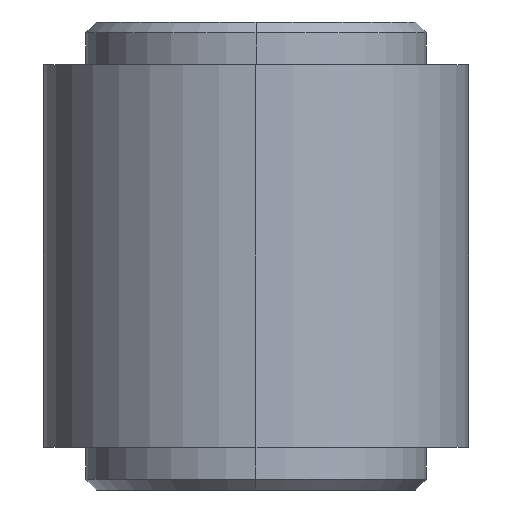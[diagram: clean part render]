
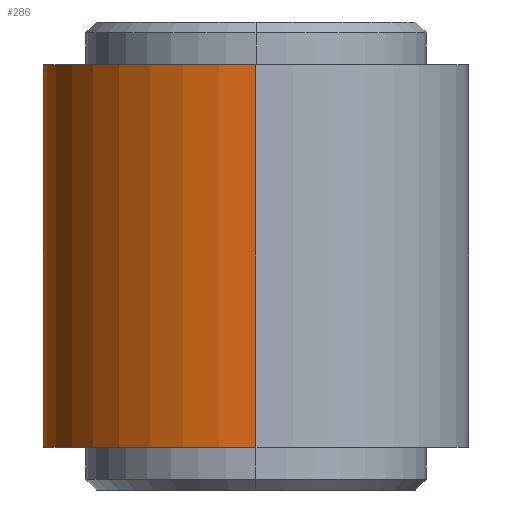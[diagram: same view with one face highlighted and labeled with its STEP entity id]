
A CAD part, left-side view. The second image highlights one B-rep face of the part: STEP entity #286.
In plain terms, the highlighted cylindrical face has radius 10 mm (diameter 20 mm), a partial arc.
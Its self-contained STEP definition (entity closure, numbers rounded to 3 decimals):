
#3 = CARTESIAN_POINT ( 'NONE',  ( 0., 0., 9. ) ) ;
#63 = ORIENTED_EDGE ( 'NONE', *, *, #269, .T. ) ;
#71 = AXIS2_PLACEMENT_3D ( 'NONE', #3, #1313, #1686 ) ;
#104 = CARTESIAN_POINT ( 'NONE',  ( 10., 0., -9. ) ) ;
#105 = CARTESIAN_POINT ( 'NONE',  ( 9.954, 0.971, -2.845 ) ) ;
#112 = CARTESIAN_POINT ( 'NONE',  ( -10., 0., 9. ) ) ;
#154 = CARTESIAN_POINT ( 'NONE',  ( 9.994, 0.396, 2.98 ) ) ;
#269 = EDGE_CURVE ( 'NONE', #2189, #1864, #752, .T. ) ;
#285 = DIRECTION ( 'NONE',  ( -1., 0., 0. ) ) ;
#286 = ADVANCED_FACE ( 'NONE', ( #1445 ), #2413, .T. ) ;
#293 = CIRCLE ( 'NONE', #750, 10. ) ;
#295 = CARTESIAN_POINT ( 'NONE',  ( 0., 0., 9. ) ) ;
#315 = DIRECTION ( 'NONE',  ( 0., 0., -1. ) ) ;
#364 = CARTESIAN_POINT ( 'NONE',  ( 9.742, 2.259, -1.983 ) ) ;
#422 = VERTEX_POINT ( 'NONE', #112 ) ;
#473 = EDGE_LOOP ( 'NONE', ( #2423, #793, #1089, #63, #867, #1671 ) ) ;
#475 = EDGE_CURVE ( 'NONE', #601, #422, #1118, .T. ) ;
#530 = CARTESIAN_POINT ( 'NONE',  ( 10., 0., 9. ) ) ;
#556 = EDGE_CURVE ( 'NONE', #2189, #1627, #650, .T. ) ;
#601 = VERTEX_POINT ( 'NONE', #1923 ) ;
#650 = B_SPLINE_CURVE_WITH_KNOTS ( 'NONE', 3,
 ( #1580, #2177, #1341, #2515, #105, #2530, #2559, #2084, #1367, #364, #866, #1014, #1789, #1020, #2504, #2153, #1779, #903, #808, #684, #972, #829, #1541, #1840, #2004, #673, #2516, #1799, #1929, #154, #1145, #1815 ),
 .UNSPECIFIED., .F., .F.,
 ( 4, 2, 2, 2, 2, 2, 2, 2, 2, 2, 2, 2, 2, 2, 2, 4 ),
 ( 0.009, 0.01, 0.011, 0.011, 0.012, 0.012, 0.013, 0.014, 0.014, 0.015, 0.015, 0.017, 0.017, 0.018, 0.018, 0.019 ),
 .UNSPECIFIED. ) ;
#673 = CARTESIAN_POINT ( 'NONE',  ( 9.887, 1.507, 2.602 ) ) ;
#681 = DIRECTION ( 'NONE',  ( 0., 0., 1. ) ) ;
#684 = CARTESIAN_POINT ( 'NONE',  ( 9.569, 2.904, 0.78 ) ) ;
#750 = AXIS2_PLACEMENT_3D ( 'NONE', #2534, #681, #2347 ) ;
#752 = LINE ( 'NONE', #1043, #1353 ) ;
#793 = ORIENTED_EDGE ( 'NONE', *, *, #1022, .T. ) ;
#808 = CARTESIAN_POINT ( 'NONE',  ( 9.546, 2.981, 0.393 ) ) ;
#829 = CARTESIAN_POINT ( 'NONE',  ( 9.652, 2.62, 1.513 ) ) ;
#866 = CARTESIAN_POINT ( 'NONE',  ( 9.712, 2.385, -1.831 ) ) ;
#867 = ORIENTED_EDGE ( 'NONE', *, *, #2284, .T. ) ;
#903 = CARTESIAN_POINT ( 'NONE',  ( 9.539, 3., 0.198 ) ) ;
#972 = CARTESIAN_POINT ( 'NONE',  ( 9.587, 2.845, 0.971 ) ) ;
#1014 = CARTESIAN_POINT ( 'NONE',  ( 9.656, 2.601, -1.507 ) ) ;
#1020 = CARTESIAN_POINT ( 'NONE',  ( 9.587, 2.846, -0.969 ) ) ;
#1022 = EDGE_CURVE ( 'NONE', #601, #1627, #1605, .T. ) ;
#1043 = CARTESIAN_POINT ( 'NONE',  ( 10., 0., 9. ) ) ;
#1089 = ORIENTED_EDGE ( 'NONE', *, *, #556, .F. ) ;
#1118 = CIRCLE ( 'NONE', #71, 10. ) ;
#1145 = CARTESIAN_POINT ( 'NONE',  ( 10., 0.199, 3. ) ) ;
#1287 = EDGE_CURVE ( 'NONE', #422, #1523, #1684, .T. ) ;
#1313 = DIRECTION ( 'NONE',  ( 0., 0., 1. ) ) ;
#1341 = CARTESIAN_POINT ( 'NONE',  ( 9.994, 0.394, -2.981 ) ) ;
#1353 = VECTOR ( 'NONE', #2240, 1000. ) ;
#1367 = CARTESIAN_POINT ( 'NONE',  ( 9.803, 1.983, -2.26 ) ) ;
#1445 = FACE_OUTER_BOUND ( 'NONE', #473, .T. ) ;
#1523 = VERTEX_POINT ( 'NONE', #2307 ) ;
#1541 = CARTESIAN_POINT ( 'NONE',  ( 9.713, 2.397, 1.845 ) ) ;
#1544 = DIRECTION ( 'NONE',  ( 0., 0., -1. ) ) ;
#1545 = AXIS2_PLACEMENT_3D ( 'NONE', #295, #315, #285 ) ;
#1552 = CARTESIAN_POINT ( 'NONE',  ( -10., 0., 9. ) ) ;
#1580 = CARTESIAN_POINT ( 'NONE',  ( 10., 0., -3. ) ) ;
#1605 = LINE ( 'NONE', #530, #2584 ) ;
#1627 = VERTEX_POINT ( 'NONE', #2657 ) ;
#1671 = ORIENTED_EDGE ( 'NONE', *, *, #1287, .F. ) ;
#1684 = LINE ( 'NONE', #1552, #2663 ) ;
#1686 = DIRECTION ( 'NONE',  ( 1., 0., 0. ) ) ;
#1725 = DIRECTION ( 'NONE',  ( 0., 0., -1. ) ) ;
#1779 = CARTESIAN_POINT ( 'NONE',  ( 9.539, 3., -0.198 ) ) ;
#1789 = CARTESIAN_POINT ( 'NONE',  ( 9.631, 2.694, -1.335 ) ) ;
#1799 = CARTESIAN_POINT ( 'NONE',  ( 9.954, 0.973, 2.845 ) ) ;
#1815 = CARTESIAN_POINT ( 'NONE',  ( 10., 0., 3. ) ) ;
#1840 = CARTESIAN_POINT ( 'NONE',  ( 9.802, 1.985, 2.258 ) ) ;
#1864 = VERTEX_POINT ( 'NONE', #104 ) ;
#1923 = CARTESIAN_POINT ( 'NONE',  ( 10., 0., 9. ) ) ;
#1929 = CARTESIAN_POINT ( 'NONE',  ( 9.971, 0.781, 2.903 ) ) ;
#2004 = CARTESIAN_POINT ( 'NONE',  ( 9.832, 1.832, 2.384 ) ) ;
#2084 = CARTESIAN_POINT ( 'NONE',  ( 9.832, 1.832, -2.383 ) ) ;
#2153 = CARTESIAN_POINT ( 'NONE',  ( 9.546, 2.98, -0.397 ) ) ;
#2177 = CARTESIAN_POINT ( 'NONE',  ( 10., 0.196, -3. ) ) ;
#2189 = VERTEX_POINT ( 'NONE', #2508 ) ;
#2240 = DIRECTION ( 'NONE',  ( 0., 0., -1. ) ) ;
#2284 = EDGE_CURVE ( 'NONE', #1864, #1523, #293, .T. ) ;
#2307 = CARTESIAN_POINT ( 'NONE',  ( -10., 0., -9. ) ) ;
#2347 = DIRECTION ( 'NONE',  ( 1., 0., 0. ) ) ;
#2413 = CYLINDRICAL_SURFACE ( 'NONE', #1545, 10. ) ;
#2423 = ORIENTED_EDGE ( 'NONE', *, *, #475, .F. ) ;
#2504 = CARTESIAN_POINT ( 'NONE',  ( 9.569, 2.903, -0.782 ) ) ;
#2508 = CARTESIAN_POINT ( 'NONE',  ( 10., 0., -3. ) ) ;
#2515 = CARTESIAN_POINT ( 'NONE',  ( 9.971, 0.783, -2.903 ) ) ;
#2516 = CARTESIAN_POINT ( 'NONE',  ( 9.912, 1.335, 2.694 ) ) ;
#2530 = CARTESIAN_POINT ( 'NONE',  ( 9.913, 1.332, -2.695 ) ) ;
#2534 = CARTESIAN_POINT ( 'NONE',  ( 0., 0., -9. ) ) ;
#2559 = CARTESIAN_POINT ( 'NONE',  ( 9.887, 1.508, -2.601 ) ) ;
#2584 = VECTOR ( 'NONE', #1544, 1000. ) ;
#2657 = CARTESIAN_POINT ( 'NONE',  ( 10., 0., 3. ) ) ;
#2663 = VECTOR ( 'NONE', #1725, 1000. ) ;
